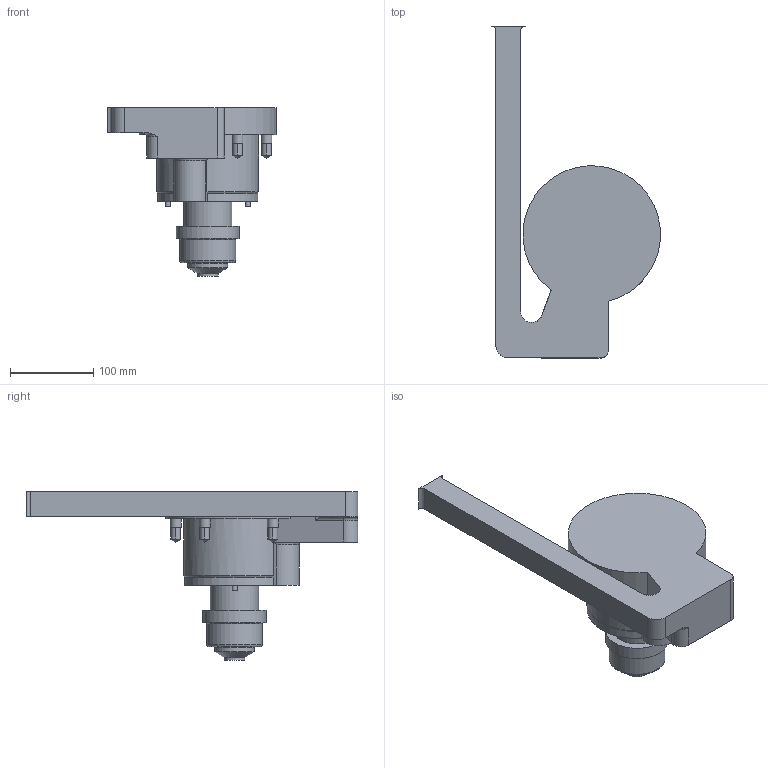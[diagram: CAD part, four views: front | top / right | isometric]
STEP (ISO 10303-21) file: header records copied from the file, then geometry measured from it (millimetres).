
FILE_DESCRIPTION( ( 'STEP AP214' ), '1' );
FILE_NAME( 'S:/PROIECTE_YUDO_2009_dupa_1.07.2009/PROIECTE YUDO 3D 01.07.2009/SAS/YUEU09-SAS42LVF170_4/YUEU09-SAS42LVF170_cutout.step', '2009-08-24T11:59:22', ( ' ' ), ( ' ' ), 'XStep 1.0', ' ', ' ' );
FILE_SCHEMA( ( 'automotive_design' ) );
Length unit declared in the file: millimetre
Products named in the file (1): 1
Bounding box: 202.3 x 398 x 202.5 mm (x, y, z)
Volume: 2721306 mm3; surface area: 193119.1 mm2
Topology: 1 solids, 1 shells, 90 faces, 213 edges, 141 vertices
Faces by surface type: plane 40, cylinder 38, cone 9, torus 3
Full cylindrical faces by diameter (mm): 6 x2, 11.35 x5, 13 x5, 25 x1, 48 x1, 58 x1, 67 x1, 76 x1
Entity records: 3166 total; most frequent: CARTESIAN_POINT 462, DIRECTION 430, ORIENTED_EDGE 346, AXIS2_PLACEMENT_3D 174, EDGE_CURVE 173, EDGE_LOOP 132, VERTEX_POINT 132, FACE_OUTER_BOUND 108
